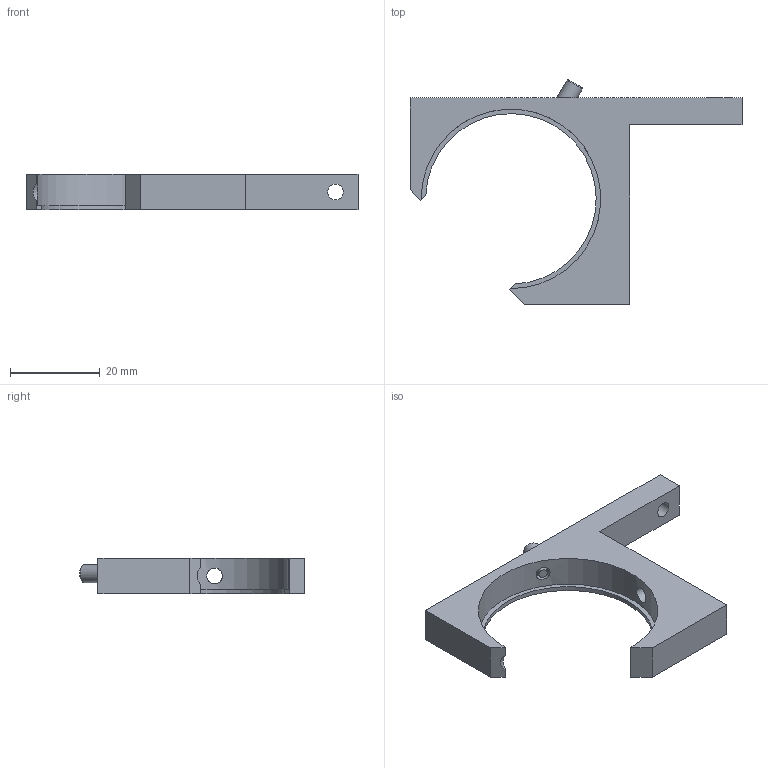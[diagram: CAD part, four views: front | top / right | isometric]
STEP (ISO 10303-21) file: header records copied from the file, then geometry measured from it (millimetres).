
FILE_DESCRIPTION(/* description */ (''),/* implementation_level */ '2;1');
FILE_NAME(/* name */ '5OM122A1-40.stp',/* time_stamp */ '2026-06-03T08:12:08+03:00',/* author */ ('dsgn33'),/* organization */ (''),/* preprocessor_version */ 'ST-DEVELOPER v20',/* originating_system */ 'Autodesk Inventor 2025',/* authorisation */ '');
FILE_SCHEMA (('AUTOMOTIVE_DESIGN { 1 0 10303 214 3 1 1 }'));
Length unit declared in the file: millimetre
Products named in the file (1): 5OM122A1-40_Simplify_1
Bounding box: 74 x 50.07 x 8 mm (x, y, z)
Volume: 7351.9 mm3; surface area: 4590.6 mm2
Topology: 1 solids, 1 shells, 38 faces, 93 edges, 62 vertices
Faces by surface type: plane 25, cylinder 10, cone 3
Full cylindrical faces by diameter (mm): 2 x1, 2.5 x1, 3.242 x1, 3.5 x2, 4 x1, 5.8 x1
Entity records: 1297 total; most frequent: CARTESIAN_POINT 270, DIRECTION 187, ORIENTED_EDGE 184, EDGE_CURVE 92, LINE 65, VECTOR 65, VERTEX_POINT 62, AXIS2_PLACEMENT_3D 61
